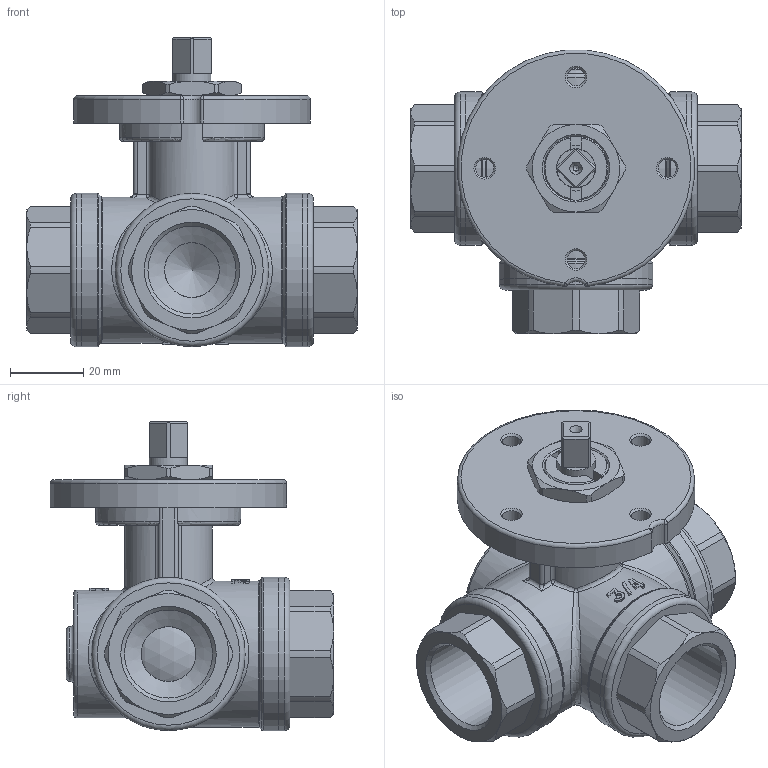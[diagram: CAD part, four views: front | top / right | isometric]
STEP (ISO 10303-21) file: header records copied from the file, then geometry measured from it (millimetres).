
FILE_DESCRIPTION((''),'2;1');
FILE_NAME('C:\Documents and Settings\ut4\Desktop\TICOM 16-07-2012\Art.92 PM SM 034.stp','2012-07-16T13:55:58',('ut4'),(''),'Autodesk Inventor 2013','Autodesk Inventor 2013','');
FILE_SCHEMA(('AUTOMOTIVE_DESIGN { 1 0 10303 214 1 1 1 1 }'));
Length unit declared in the file: millimetre
Products named in the file (13): Art.92 PM SM 034; Corpo 3vie mot. 034; Manic. 3vie 034; Boccola antigrip. perno mot. Ø15; O-ring 18.64 x 3; Sede 3vie 034 mot; Sfera 3vie for. L 034; Perno mot. 15 q8; O-ring 11.11 x 1; Ghiera ferma asta mot. 20-19; Anello antigrip. perno mot. Ø15; Dischetto portamotore SM Ø19 lav; Dado blocca piastra SM2
Assembly tree (21 placements, depth 2):
  Art.92 PM SM 034
    Corpo 3vie mot. 034
    Manic. 3vie 034  x3
    Boccola antigrip. perno mot. Ø15
    O-ring 18.64 x 3  x4
    Sede 3vie 034 mot  x4
    Sfera 3vie for. L 034
    Perno mot. 15 q8
    O-ring 11.11 x 1  x2
    Ghiera ferma asta mot. 20-19
    Anello antigrip. perno mot. Ø15
    Dischetto portamotore SM Ø19 lav
    Dado blocca piastra SM2
Bounding box: 90.5 x 77.63 x 84.75 mm (x, y, z)
Volume: 135012.3 mm3; surface area: 76897.8 mm2
Topology: 21 solids, 21 shells, 641 faces, 1532 edges, 934 vertices
Faces by surface type: plane 242, cylinder 209, cone 86, torus 60, sphere 23, bspline 21
Full cylindrical faces by diameter (mm): 1.6 x1, 4.917 x4, 10 x1, 10.5 x2, 10.7 x1, 12 x1, 12.1 x2, 12.4 x2, 12.5 x2, 14.9 x3, 15 x12, 17.5 x5, 18 x1, 18.5 x1, 19 x2, 20 x1, 24.12 x3, 25.9 x8, 29.5 x3, 30.5 x2, 34.5 x3, 34.52 x1, 35 x1, 36 x3, 36.8 x3, 40 x2, 42 x6
Entity records: 16770 total; most frequent: CARTESIAN_POINT 4318, DIRECTION 2664, ORIENTED_EDGE 2268, EDGE_CURVE 1134, AXIS2_PLACEMENT_3D 1122, VERTEX_POINT 758, EDGE_LOOP 702, FACE_OUTER_BOUND 532
